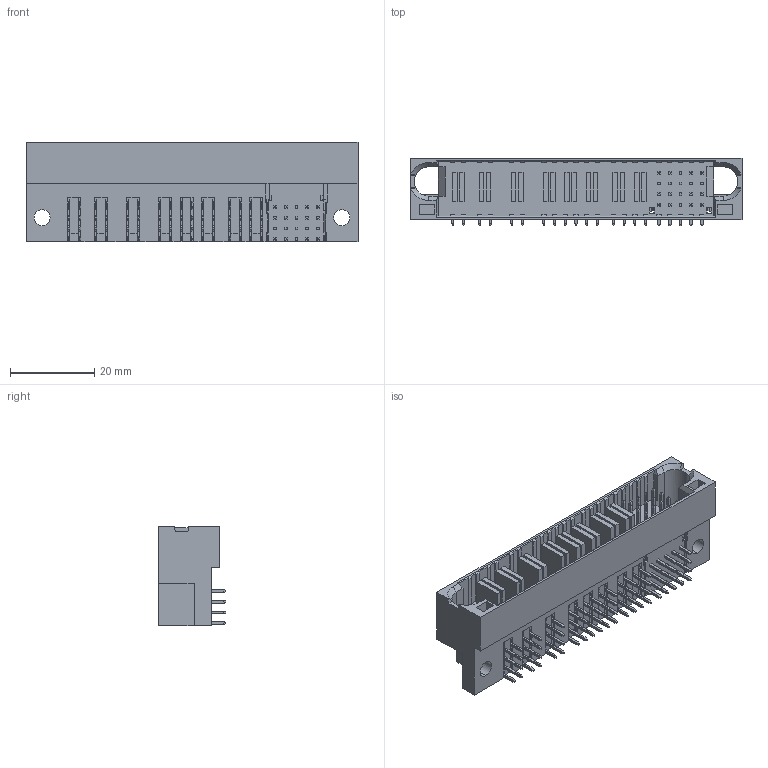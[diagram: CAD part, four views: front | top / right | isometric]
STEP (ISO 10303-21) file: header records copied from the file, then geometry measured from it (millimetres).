
FILE_DESCRIPTION (( 'STEP AP214' ), '1' );
FILE_NAME ('9391-A1P2AA1AH3PH2S20CB30DA-A038.STEP', '2023-09-06T02:51:13', ( '' ), ( '' ), 'SwSTEP 2.0', 'SolidWorks 2011', '' );
FILE_SCHEMA (( 'AUTOMOTIVE_DESIGN' ));
Length unit declared in the file: millimetre
Products named in the file (1): 9391-A1P2AA1AH3PH2S20CB30DA-A038
Bounding box: 78.76 x 16 x 23.62 mm (x, y, z)
Volume: 16469.6 mm3; surface area: 12487.8 mm2
Topology: 1 solids, 4 shells, 1893 faces, 5091 edges, 3235 vertices
Faces by surface type: plane 1717, cylinder 172, cone 4
Entity records: 78534 total; most frequent: CARTESIAN_POINT 10238, ORIENTED_EDGE 10182, DIRECTION 9227, EDGE_CURVE 5091, VECTOR 4731, LINE 4731, VERTEX_POINT 3235, AXIS2_PLACEMENT_3D 2248
